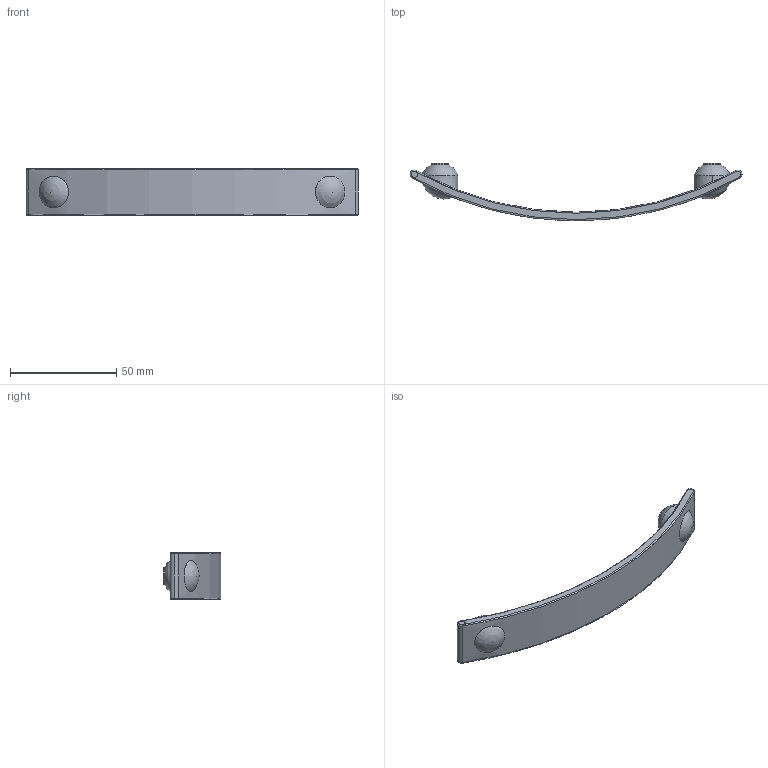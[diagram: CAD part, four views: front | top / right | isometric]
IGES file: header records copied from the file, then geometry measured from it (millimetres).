
Start section: Data from Parasolid IGES Translator 15.0.47, Copyright(c) 2006 Siemens P LM Software. All Rights Reserved.
Global section: file name: 9118965.igs; native system:  By UGS Corp.; preprocessor: XPlus GENERIC/IGES 3.0; author: Noname; organization: Noname; date: 20140122.102522; units: millimetre
Bounding box: 156.03 x 27 x 22.02 mm (x, y, z)
Surface area: 9222.7 mm2 (no closed solid volume)
Topology: 0 solids, 0 shells, 38 faces, 170 edges, 158 vertices
Faces by surface type: revolution 28, extrusion 10
